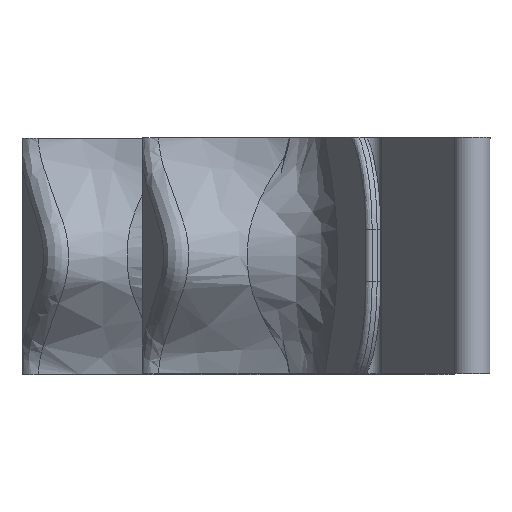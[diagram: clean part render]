
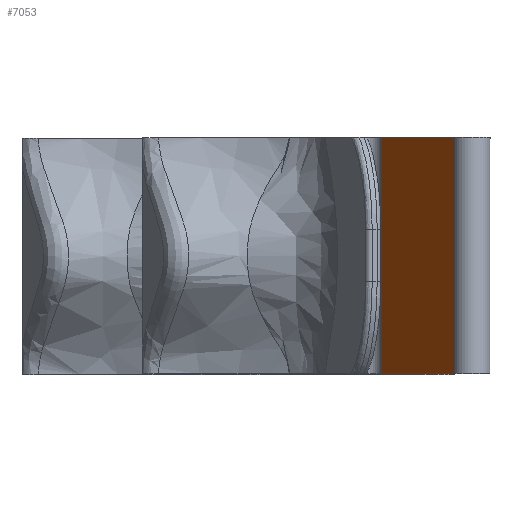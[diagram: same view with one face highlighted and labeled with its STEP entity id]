
A CAD part, top view. The second image highlights one B-rep face of the part: STEP entity #7053.
In plain terms, the highlighted planar face has unit normal (-0.952, 0, 0.305).
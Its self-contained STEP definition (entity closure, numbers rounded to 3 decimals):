
#1278=FACE_OUTER_BOUND('',#1674,.T.);
#1674=EDGE_LOOP('',(#6332,#6333,#6334,#6335));
#2130=LINE('',#14361,#2592);
#2147=LINE('',#14545,#2609);
#2149=LINE('',#14550,#2611);
#2150=LINE('',#14551,#2612);
#2592=VECTOR('',#7788,10.);
#2609=VECTOR('',#7833,10.);
#2611=VECTOR('',#7839,10.);
#2612=VECTOR('',#7840,10.);
#3270=VERTEX_POINT('',#14358);
#3271=VERTEX_POINT('',#14360);
#3310=VERTEX_POINT('',#14543);
#3311=VERTEX_POINT('',#14549);
#4295=EDGE_CURVE('',#3270,#3271,#2130,.T.);
#4336=EDGE_CURVE('',#3310,#3270,#2147,.T.);
#4338=EDGE_CURVE('',#3311,#3310,#2149,.T.);
#4339=EDGE_CURVE('',#3271,#3311,#2150,.T.);
#6332=ORIENTED_EDGE('',*,*,#4336,.F.);
#6333=ORIENTED_EDGE('',*,*,#4338,.F.);
#6334=ORIENTED_EDGE('',*,*,#4339,.F.);
#6335=ORIENTED_EDGE('',*,*,#4295,.F.);
#6716=PLANE('',#7211);
#7053=ADVANCED_FACE('',(#1278),#6716,.T.);
#7211=AXIS2_PLACEMENT_3D('',#14548,#7837,#7838);
#7788=DIRECTION('',(-0.305,0.,-0.952));
#7833=DIRECTION('',(0.,-1.,0.));
#7837=DIRECTION('center_axis',(-0.952,0.,0.305));
#7838=DIRECTION('ref_axis',(0.305,0.,0.952));
#7839=DIRECTION('',(0.305,0.,0.952));
#7840=DIRECTION('',(0.,1.,0.));
#14358=CARTESIAN_POINT('',(45.02,-22.5,148.406));
#14360=CARTESIAN_POINT('',(31.144,-22.5,105.129));
#14361=CARTESIAN_POINT('',(91.599,-22.5,293.674));
#14543=CARTESIAN_POINT('',(45.02,22.5,148.406));
#14545=CARTESIAN_POINT('',(45.02,0.,148.406));
#14548=CARTESIAN_POINT('Origin',(0.,0.,8.));
#14549=CARTESIAN_POINT('',(31.144,22.5,105.129));
#14550=CARTESIAN_POINT('',(44.598,22.5,147.09));
#14551=CARTESIAN_POINT('',(31.144,-11.25,105.129));
